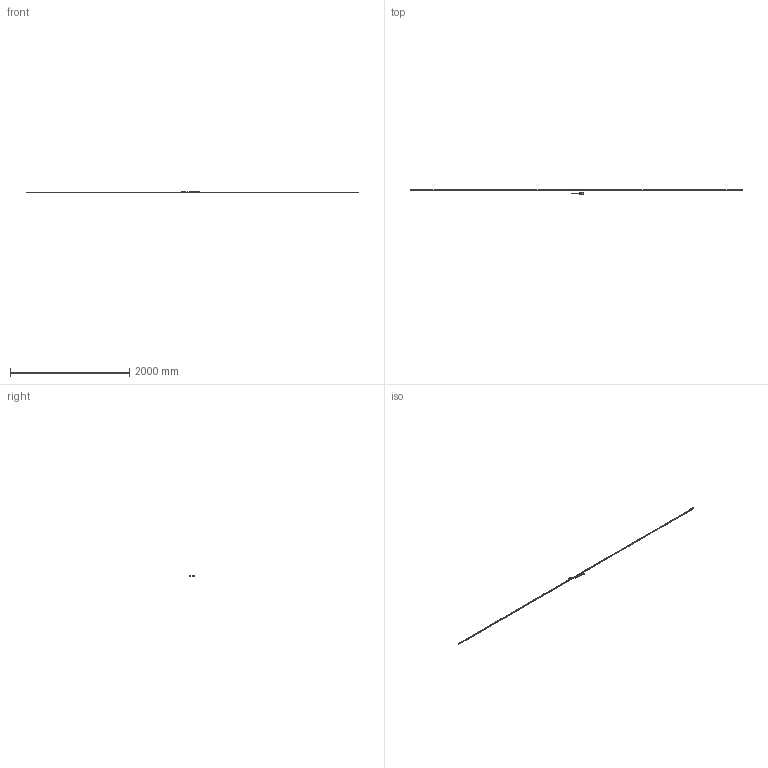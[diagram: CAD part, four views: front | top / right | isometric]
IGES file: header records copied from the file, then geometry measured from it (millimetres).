
Start section: Elysium IGES Interface
Global section: file name: 90H\\Utsu119s\kiyo_cad\data\3D\ABS ST1300\HP掲載用_201803\ST1300-Dタイプ\PKG\ST1300-5400D.igs; native system: Creo Elements/Direct Modeling 18.1B  29-Sep-2012; preprocessor: Creo Element/Direct IGES_3D V2.2; author: Unknown; organization: Unknown; date: 20180301.150426; units: millimetre
Bounding box: 5573 x 88.3 x 30.1 mm (x, y, z)
Volume: 490288.6 mm3; surface area: 310586.5 mm2
Topology: 3 solids, 10 shells, 5029 faces, 13562 edges, 8762 vertices
Faces by surface type: bspline 5029
